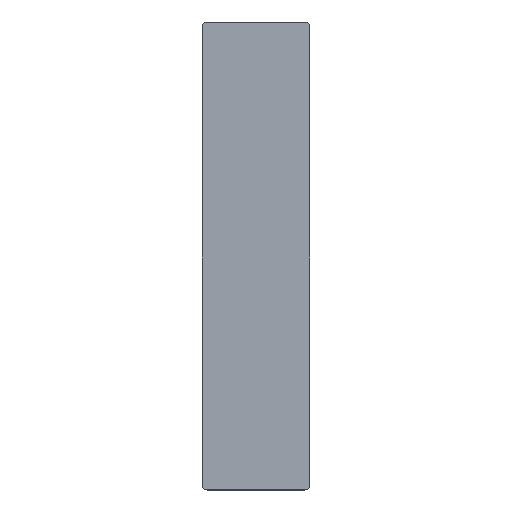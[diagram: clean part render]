
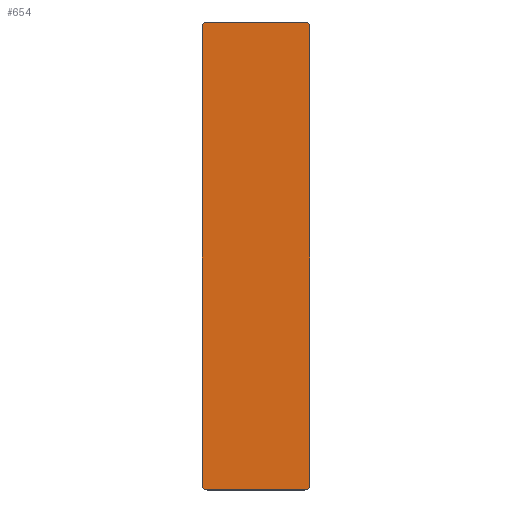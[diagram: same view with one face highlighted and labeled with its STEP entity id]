
A CAD part, top view. The second image highlights one B-rep face of the part: STEP entity #654.
In plain terms, the highlighted planar face has unit normal (0, 0, 1).
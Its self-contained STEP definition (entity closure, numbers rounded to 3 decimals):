
#24 = VERTEX_POINT('',#25);
#25 = CARTESIAN_POINT('',(-11.25,-34.5,-21.79));
#32 = PLANE('',#33);
#33 = AXIS2_PLACEMENT_3D('',#34,#35,#36);
#34 = CARTESIAN_POINT('',(-11.25,-34.5,-22.1));
#35 = DIRECTION('',(-1.,0.,0.));
#36 = DIRECTION('',(0.,1.,0.));
#44 = CYLINDRICAL_SURFACE('',#45,1.);
#45 = AXIS2_PLACEMENT_3D('',#46,#47,#48);
#46 = CARTESIAN_POINT('',(-10.25,-34.5,-22.1));
#47 = DIRECTION('',(-0.,-0.,-1.));
#48 = DIRECTION('',(1.,0.,0.));
#56 = EDGE_CURVE('',#24,#57,#59,.T.);
#57 = VERTEX_POINT('',#58);
#58 = CARTESIAN_POINT('',(-11.25,61.5,-21.79));
#59 = SURFACE_CURVE('',#60,(#64,#71),.PCURVE_S1.);
#60 = LINE('',#61,#62);
#61 = CARTESIAN_POINT('',(-11.25,13.5,-21.79));
#62 = VECTOR('',#63,1.);
#63 = DIRECTION('',(0.,1.,0.));
#64 = PCURVE('',#32,#65);
#65 = DEFINITIONAL_REPRESENTATION('',(#66),#70);
#66 = LINE('',#67,#68);
#67 = CARTESIAN_POINT('',(48.,-0.31));
#68 = VECTOR('',#69,1.);
#69 = DIRECTION('',(1.,0.));
#70 = ( GEOMETRIC_REPRESENTATION_CONTEXT(2) 
PARAMETRIC_REPRESENTATION_CONTEXT() REPRESENTATION_CONTEXT('2D SPACE',''
  ) );
#71 = PCURVE('',#72,#77);
#72 = PLANE('',#73);
#73 = AXIS2_PLACEMENT_3D('',#74,#75,#76);
#74 = CARTESIAN_POINT('',(0.,13.5,-21.79));
#75 = DIRECTION('',(0.,0.,1.));
#76 = DIRECTION('',(1.,0.,0.));
#77 = DEFINITIONAL_REPRESENTATION('',(#78),#82);
#78 = LINE('',#79,#80);
#79 = CARTESIAN_POINT('',(-11.25,0.));
#80 = VECTOR('',#81,1.);
#81 = DIRECTION('',(0.,1.));
#82 = ( GEOMETRIC_REPRESENTATION_CONTEXT(2) 
PARAMETRIC_REPRESENTATION_CONTEXT() REPRESENTATION_CONTEXT('2D SPACE',''
  ) );
#100 = CYLINDRICAL_SURFACE('',#101,1.);
#101 = AXIS2_PLACEMENT_3D('',#102,#103,#104);
#102 = CARTESIAN_POINT('',(-10.25,61.5,-22.1));
#103 = DIRECTION('',(-0.,-0.,-1.));
#104 = DIRECTION('',(1.,0.,0.));
#142 = EDGE_CURVE('',#24,#143,#145,.T.);
#143 = VERTEX_POINT('',#144);
#144 = CARTESIAN_POINT('',(-10.25,-35.5,-21.79));
#145 = SURFACE_CURVE('',#146,(#151,#158),.PCURVE_S1.);
#146 = CIRCLE('',#147,1.);
#147 = AXIS2_PLACEMENT_3D('',#148,#149,#150);
#148 = CARTESIAN_POINT('',(-10.25,-34.5,-21.79));
#149 = DIRECTION('',(0.,0.,1.));
#150 = DIRECTION('',(1.,0.,0.));
#151 = PCURVE('',#44,#152);
#152 = DEFINITIONAL_REPRESENTATION('',(#153),#157);
#153 = LINE('',#154,#155);
#154 = CARTESIAN_POINT('',(-0.,-0.31));
#155 = VECTOR('',#156,1.);
#156 = DIRECTION('',(-1.,0.));
#157 = ( GEOMETRIC_REPRESENTATION_CONTEXT(2) 
PARAMETRIC_REPRESENTATION_CONTEXT() REPRESENTATION_CONTEXT('2D SPACE',''
  ) );
#158 = PCURVE('',#72,#159);
#159 = DEFINITIONAL_REPRESENTATION('',(#160),#164);
#160 = CIRCLE('',#161,1.);
#161 = AXIS2_PLACEMENT_2D('',#162,#163);
#162 = CARTESIAN_POINT('',(-10.25,-48.));
#163 = DIRECTION('',(1.,0.));
#164 = ( GEOMETRIC_REPRESENTATION_CONTEXT(2) 
PARAMETRIC_REPRESENTATION_CONTEXT() REPRESENTATION_CONTEXT('2D SPACE',''
  ) );
#182 = PLANE('',#183);
#183 = AXIS2_PLACEMENT_3D('',#184,#185,#186);
#184 = CARTESIAN_POINT('',(-10.25,-35.5,-22.1));
#185 = DIRECTION('',(0.,1.,0.));
#186 = DIRECTION('',(1.,0.,0.));
#220 = EDGE_CURVE('',#143,#221,#223,.T.);
#221 = VERTEX_POINT('',#222);
#222 = CARTESIAN_POINT('',(10.25,-35.5,-21.79));
#223 = SURFACE_CURVE('',#224,(#228,#235),.PCURVE_S1.);
#224 = LINE('',#225,#226);
#225 = CARTESIAN_POINT('',(0.,-35.5,-21.79));
#226 = VECTOR('',#227,1.);
#227 = DIRECTION('',(1.,0.,0.));
#228 = PCURVE('',#182,#229);
#229 = DEFINITIONAL_REPRESENTATION('',(#230),#234);
#230 = LINE('',#231,#232);
#231 = CARTESIAN_POINT('',(10.25,-0.31));
#232 = VECTOR('',#233,1.);
#233 = DIRECTION('',(1.,0.));
#234 = ( GEOMETRIC_REPRESENTATION_CONTEXT(2) 
PARAMETRIC_REPRESENTATION_CONTEXT() REPRESENTATION_CONTEXT('2D SPACE',''
  ) );
#235 = PCURVE('',#72,#236);
#236 = DEFINITIONAL_REPRESENTATION('',(#237),#241);
#237 = LINE('',#238,#239);
#238 = CARTESIAN_POINT('',(0.,-49.));
#239 = VECTOR('',#240,1.);
#240 = DIRECTION('',(1.,0.));
#241 = ( GEOMETRIC_REPRESENTATION_CONTEXT(2) 
PARAMETRIC_REPRESENTATION_CONTEXT() REPRESENTATION_CONTEXT('2D SPACE',''
  ) );
#259 = CYLINDRICAL_SURFACE('',#260,1.);
#260 = AXIS2_PLACEMENT_3D('',#261,#262,#263);
#261 = CARTESIAN_POINT('',(10.25,-34.5,-22.1));
#262 = DIRECTION('',(-0.,-0.,-1.));
#263 = DIRECTION('',(1.,0.,0.));
#296 = EDGE_CURVE('',#221,#297,#299,.T.);
#297 = VERTEX_POINT('',#298);
#298 = CARTESIAN_POINT('',(11.25,-34.5,-21.79));
#299 = SURFACE_CURVE('',#300,(#305,#312),.PCURVE_S1.);
#300 = CIRCLE('',#301,1.);
#301 = AXIS2_PLACEMENT_3D('',#302,#303,#304);
#302 = CARTESIAN_POINT('',(10.25,-34.5,-21.79));
#303 = DIRECTION('',(0.,0.,1.));
#304 = DIRECTION('',(1.,0.,0.));
#305 = PCURVE('',#259,#306);
#306 = DEFINITIONAL_REPRESENTATION('',(#307),#311);
#307 = LINE('',#308,#309);
#308 = CARTESIAN_POINT('',(-0.,-0.31));
#309 = VECTOR('',#310,1.);
#310 = DIRECTION('',(-1.,0.));
#311 = ( GEOMETRIC_REPRESENTATION_CONTEXT(2) 
PARAMETRIC_REPRESENTATION_CONTEXT() REPRESENTATION_CONTEXT('2D SPACE',''
  ) );
#312 = PCURVE('',#72,#313);
#313 = DEFINITIONAL_REPRESENTATION('',(#314),#318);
#314 = CIRCLE('',#315,1.);
#315 = AXIS2_PLACEMENT_2D('',#316,#317);
#316 = CARTESIAN_POINT('',(10.25,-48.));
#317 = DIRECTION('',(1.,0.));
#318 = ( GEOMETRIC_REPRESENTATION_CONTEXT(2) 
PARAMETRIC_REPRESENTATION_CONTEXT() REPRESENTATION_CONTEXT('2D SPACE',''
  ) );
#336 = PLANE('',#337);
#337 = AXIS2_PLACEMENT_3D('',#338,#339,#340);
#338 = CARTESIAN_POINT('',(11.25,-34.5,-22.1));
#339 = DIRECTION('',(-1.,0.,0.));
#340 = DIRECTION('',(0.,1.,0.));
#374 = EDGE_CURVE('',#297,#375,#377,.T.);
#375 = VERTEX_POINT('',#376);
#376 = CARTESIAN_POINT('',(11.25,61.5,-21.79));
#377 = SURFACE_CURVE('',#378,(#382,#389),.PCURVE_S1.);
#378 = LINE('',#379,#380);
#379 = CARTESIAN_POINT('',(11.25,13.5,-21.79));
#380 = VECTOR('',#381,1.);
#381 = DIRECTION('',(0.,1.,0.));
#382 = PCURVE('',#336,#383);
#383 = DEFINITIONAL_REPRESENTATION('',(#384),#388);
#384 = LINE('',#385,#386);
#385 = CARTESIAN_POINT('',(48.,-0.31));
#386 = VECTOR('',#387,1.);
#387 = DIRECTION('',(1.,0.));
#388 = ( GEOMETRIC_REPRESENTATION_CONTEXT(2) 
PARAMETRIC_REPRESENTATION_CONTEXT() REPRESENTATION_CONTEXT('2D SPACE',''
  ) );
#389 = PCURVE('',#72,#390);
#390 = DEFINITIONAL_REPRESENTATION('',(#391),#395);
#391 = LINE('',#392,#393);
#392 = CARTESIAN_POINT('',(11.25,0.));
#393 = VECTOR('',#394,1.);
#394 = DIRECTION('',(0.,1.));
#395 = ( GEOMETRIC_REPRESENTATION_CONTEXT(2) 
PARAMETRIC_REPRESENTATION_CONTEXT() REPRESENTATION_CONTEXT('2D SPACE',''
  ) );
#413 = CYLINDRICAL_SURFACE('',#414,1.);
#414 = AXIS2_PLACEMENT_3D('',#415,#416,#417);
#415 = CARTESIAN_POINT('',(10.25,61.5,-22.1));
#416 = DIRECTION('',(-0.,-0.,-1.));
#417 = DIRECTION('',(1.,0.,0.));
#450 = EDGE_CURVE('',#375,#451,#453,.T.);
#451 = VERTEX_POINT('',#452);
#452 = CARTESIAN_POINT('',(10.25,62.5,-21.79));
#453 = SURFACE_CURVE('',#454,(#459,#466),.PCURVE_S1.);
#454 = CIRCLE('',#455,1.);
#455 = AXIS2_PLACEMENT_3D('',#456,#457,#458);
#456 = CARTESIAN_POINT('',(10.25,61.5,-21.79));
#457 = DIRECTION('',(0.,0.,1.));
#458 = DIRECTION('',(1.,0.,0.));
#459 = PCURVE('',#413,#460);
#460 = DEFINITIONAL_REPRESENTATION('',(#461),#465);
#461 = LINE('',#462,#463);
#462 = CARTESIAN_POINT('',(-0.,-0.31));
#463 = VECTOR('',#464,1.);
#464 = DIRECTION('',(-1.,0.));
#465 = ( GEOMETRIC_REPRESENTATION_CONTEXT(2) 
PARAMETRIC_REPRESENTATION_CONTEXT() REPRESENTATION_CONTEXT('2D SPACE',''
  ) );
#466 = PCURVE('',#72,#467);
#467 = DEFINITIONAL_REPRESENTATION('',(#468),#472);
#468 = CIRCLE('',#469,1.);
#469 = AXIS2_PLACEMENT_2D('',#470,#471);
#470 = CARTESIAN_POINT('',(10.25,48.));
#471 = DIRECTION('',(1.,0.));
#472 = ( GEOMETRIC_REPRESENTATION_CONTEXT(2) 
PARAMETRIC_REPRESENTATION_CONTEXT() REPRESENTATION_CONTEXT('2D SPACE',''
  ) );
#490 = PLANE('',#491);
#491 = AXIS2_PLACEMENT_3D('',#492,#493,#494);
#492 = CARTESIAN_POINT('',(-10.25,62.5,-22.1));
#493 = DIRECTION('',(0.,1.,0.));
#494 = DIRECTION('',(1.,0.,0.));
#530 = VERTEX_POINT('',#531);
#531 = CARTESIAN_POINT('',(-10.25,62.5,-21.79));
#552 = EDGE_CURVE('',#530,#451,#553,.T.);
#553 = SURFACE_CURVE('',#554,(#558,#565),.PCURVE_S1.);
#554 = LINE('',#555,#556);
#555 = CARTESIAN_POINT('',(0.,62.5,-21.79));
#556 = VECTOR('',#557,1.);
#557 = DIRECTION('',(1.,0.,0.));
#558 = PCURVE('',#490,#559);
#559 = DEFINITIONAL_REPRESENTATION('',(#560),#564);
#560 = LINE('',#561,#562);
#561 = CARTESIAN_POINT('',(10.25,-0.31));
#562 = VECTOR('',#563,1.);
#563 = DIRECTION('',(1.,0.));
#564 = ( GEOMETRIC_REPRESENTATION_CONTEXT(2) 
PARAMETRIC_REPRESENTATION_CONTEXT() REPRESENTATION_CONTEXT('2D SPACE',''
  ) );
#565 = PCURVE('',#72,#566);
#566 = DEFINITIONAL_REPRESENTATION('',(#567),#571);
#567 = LINE('',#568,#569);
#568 = CARTESIAN_POINT('',(0.,49.));
#569 = VECTOR('',#570,1.);
#570 = DIRECTION('',(1.,0.));
#571 = ( GEOMETRIC_REPRESENTATION_CONTEXT(2) 
PARAMETRIC_REPRESENTATION_CONTEXT() REPRESENTATION_CONTEXT('2D SPACE',''
  ) );
#599 = EDGE_CURVE('',#530,#57,#600,.T.);
#600 = SURFACE_CURVE('',#601,(#606,#613),.PCURVE_S1.);
#601 = CIRCLE('',#602,1.);
#602 = AXIS2_PLACEMENT_3D('',#603,#604,#605);
#603 = CARTESIAN_POINT('',(-10.25,61.5,-21.79));
#604 = DIRECTION('',(0.,0.,1.));
#605 = DIRECTION('',(1.,0.,0.));
#606 = PCURVE('',#100,#607);
#607 = DEFINITIONAL_REPRESENTATION('',(#608),#612);
#608 = LINE('',#609,#610);
#609 = CARTESIAN_POINT('',(-0.,-0.31));
#610 = VECTOR('',#611,1.);
#611 = DIRECTION('',(-1.,0.));
#612 = ( GEOMETRIC_REPRESENTATION_CONTEXT(2) 
PARAMETRIC_REPRESENTATION_CONTEXT() REPRESENTATION_CONTEXT('2D SPACE',''
  ) );
#613 = PCURVE('',#72,#614);
#614 = DEFINITIONAL_REPRESENTATION('',(#615),#619);
#615 = CIRCLE('',#616,1.);
#616 = AXIS2_PLACEMENT_2D('',#617,#618);
#617 = CARTESIAN_POINT('',(-10.25,48.));
#618 = DIRECTION('',(1.,0.));
#619 = ( GEOMETRIC_REPRESENTATION_CONTEXT(2) 
PARAMETRIC_REPRESENTATION_CONTEXT() REPRESENTATION_CONTEXT('2D SPACE',''
  ) );
#654 = ADVANCED_FACE('',(#655),#72,.T.);
#655 = FACE_BOUND('',#656,.T.);
#656 = EDGE_LOOP('',(#657,#658,#659,#660,#661,#662,#663,#664));
#657 = ORIENTED_EDGE('',*,*,#56,.F.);
#658 = ORIENTED_EDGE('',*,*,#142,.T.);
#659 = ORIENTED_EDGE('',*,*,#220,.T.);
#660 = ORIENTED_EDGE('',*,*,#296,.T.);
#661 = ORIENTED_EDGE('',*,*,#374,.T.);
#662 = ORIENTED_EDGE('',*,*,#450,.T.);
#663 = ORIENTED_EDGE('',*,*,#552,.F.);
#664 = ORIENTED_EDGE('',*,*,#599,.T.);
